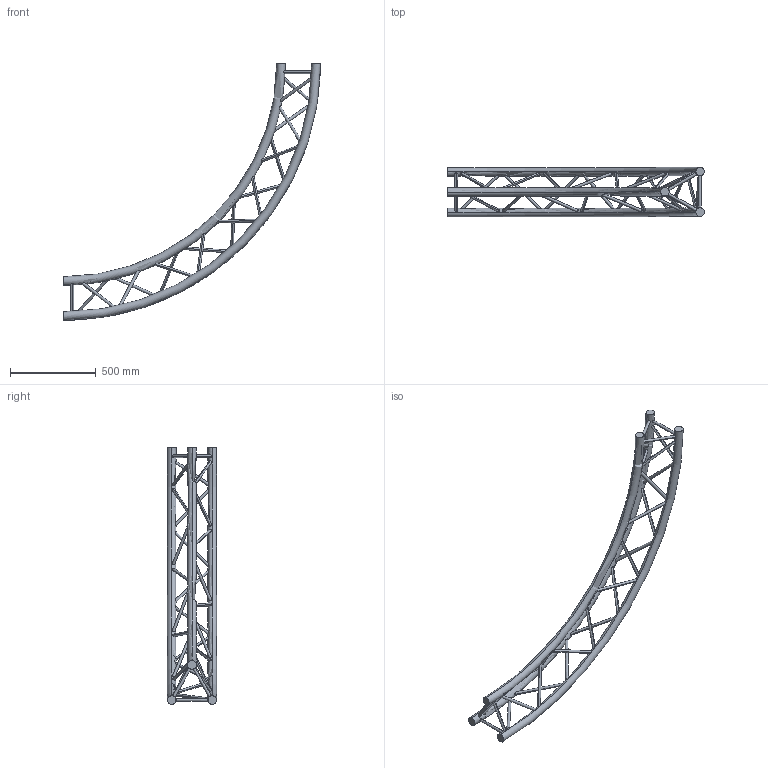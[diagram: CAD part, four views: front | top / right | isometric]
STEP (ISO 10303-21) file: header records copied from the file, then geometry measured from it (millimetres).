
FILE_DESCRIPTION (( 'STEP AP203' ), '1' );
FILE_NAME ('SXC29300PI.STEP', '2009-10-21T08:58:18', ( 'CEDIA' ), ( 'CEDIA INDUSTRIE' ), 'SwSTEP 2.0', 'SolidWorks 2009', '' );
FILE_SCHEMA (( 'CONFIG_CONTROL_DESIGN' ));
Length unit declared in the file: millimetre
Products named in the file (1): SXC29300PI
Bounding box: 1500 x 287 x 1500 mm (x, y, z)
Volume: 14641732.3 mm3; surface area: 1443372.8 mm2
Topology: 1 solids, 1 shells, 78 faces, 216 edges, 144 vertices
Faces by surface type: cylinder 66, torus 6, plane 6
Entity records: 8462 total; most frequent: CARTESIAN_POINT 6506, ORIENTED_EDGE 432, DIRECTION 260, EDGE_CURVE 216, EDGE_LOOP 144, VERTEX_POINT 144, B_SPLINE_CURVE_WITH_KNOTS 132, AXIS2_PLACEMENT_3D 97
